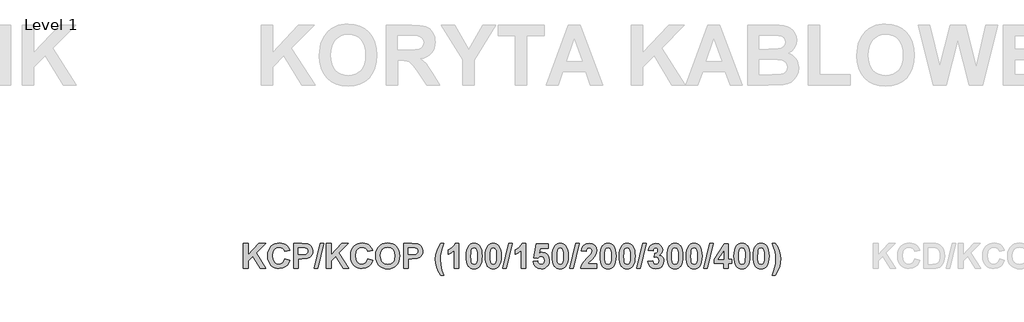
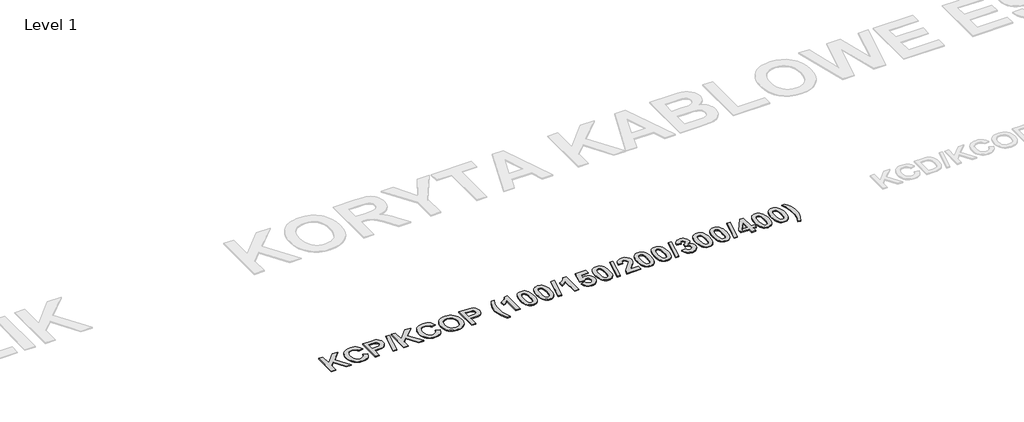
# One storey, part 16 of 42: 1 proxy.
"""IFC4 building model written with IfcOpenShell, lengths in millimetres."""

from ifc_helpers import new_model, si_unit, origin, origin_with_axes, place, context, project, spatial, polyline, outline, extrude, element, save

model = new_model("IFC4")

# Units and contexts
model_context = context("Model", 3, world=origin())
ifc_project = project(units=[si_unit("LENGTHUNIT", "METRE", prefix="MILLI")], contexts=[model_context])

# Site, building, storey
site = spatial("IfcSite", under=ifc_project)
building = spatial("IfcBuilding", under=site)
storey = spatial("IfcBuildingStorey", under=building, Name="Level 1", Elevation=0.0)

# Proxy
placement = place(None, origin())
element("IfcBuildingElementProxy", 1, Name="300mm Arial 2", ObjectType="300mm Arial 2", at=placement, inside=storey, context=model_context, shape_type="SweptSolid", body=[
    extrude(outline(polyline([(-16214.3228423, 4366.2760859), (-16214.3228423, 4621.3409359), (-16165.7390614, 4621.3409359), (-16165.7390614, 4505.0688143), (-16056.299034, 4621.3409359), (-15989.6228554, 4621.3409359), (-16086.157816, 4523.9203335), (-15985.574207, 4366.2760859), (-16042.381805, 4366.2760859), (-16117.7246216, 4491.9739671), (-16165.7390614, 4443.4534463), (-16165.7390614, 4366.2760859), (-16214.3228423, 4366.2760859)])), origin_with_axes(), (0.0, 0.0, 1.0), 10.0),
    extrude(outline(polyline([(-15793.2634074, 4463.4436478), (-15744.6796265, 4447.2490542), (-15760.0043933, 4411.4675423), (-15770.5253439, 4397.5325215), (-15782.952006, 4386.2346574), (-15813.3168691, 4371.2657288), (-15850.8933872, 4366.2760859), (-15875.2208615, 4368.4071616), (-15897.2788785, 4374.8003886), (-15917.0674384, 4385.455767), (-15934.5865411, 4400.3732968), (-15948.9228683, 4418.9875905), (-15959.1631021, 4440.7332606), (-15965.3072424, 4465.6103073), (-15967.3552891, 4493.6187305), (-15965.2894505, 4523.1533044), (-15959.0919345, 4549.192756), (-15948.7627411, 4571.7370854), (-15934.3018705, 4590.7862924), (-15916.4723978, 4605.9252326), (-15896.0373985, 4616.7387614), (-15872.9968725, 4623.2268786), (-15847.3508198, 4625.3895843), (-15824.9251032, 4623.6064394), (-15804.7134912, 4618.2570045), (-15786.7159838, 4609.3412797), (-15770.932581, 4596.8592651), (-15755.6078142, 4576.3471674), (-15744.6796265, 4548.4652645), (-15793.2634074, 4540.3679677), (-15800.7043804, 4557.1714401), (-15813.4117593, 4570.0053393), (-15830.4050121, 4578.1421737), (-15850.7036068, 4580.8544518), (-15878.1505963, 4575.9280691), (-15899.888359, 4561.1489208), (-15908.1497367, 4549.7719816), (-15914.0507209, 4535.3466947), (-15918.7715082, 4497.3510783), (-15914.1930562, 4457.275785), (-15908.4699912, 4442.2910414), (-15900.4577001, 4430.6748997), (-15879.3841689, 4415.7771388), (-15852.7911911, 4410.8112185), (-15832.7140069, 4413.9821326), (-15815.6258639, 4423.4948748), (-15802.2384386, 4439.8238963), (-15793.2634074, 4463.4436478)])), origin_with_axes(), (0.0, 0.0, 1.0), 10.0),
    extrude(outline(polyline([(-15704.1931423, 4366.2760859), (-15704.1931423, 4621.3409359), (-15622.0182316, 4621.3409359), (-15561.098725, 4617.545328), (-15541.0531708, 4608.4912217), (-15524.5659991, 4592.7157264), (-15513.5350137, 4570.8039984), (-15509.8580185, 4543.3411938), (-15512.0167705, 4521.8564717), (-15518.4930265, 4504.0882823), (-15528.2983468, 4489.8863828), (-15540.4442921, 4479.1005304), (-15567.4879983, 4467.0494753), (-15621.5754107, 4463.4436478), (-15655.6093614, 4463.4436478), (-15655.6093614, 4366.2760859), (-15704.1931423, 4366.2760859)]), holes=[polyline([(-15655.6093614, 4576.8058034), (-15655.6093614, 4507.9787804), (-15625.4342787, 4507.9787804), (-15581.8796782, 4511.7743883), (-15564.6729224, 4523.698923), (-15559.9995802, 4532.4841738), (-15558.4417995, 4542.5820723), (-15560.6321815, 4554.6489423), (-15567.2033277, 4564.4068176), (-15577.1114458, 4571.3970621), (-15589.3127436, 4575.16104), (-15628.976846, 4576.8058034), (-15655.6093614, 4576.8058034)])]), origin_with_axes(), (0.0, 0.0, 1.0), 10.0),
    extrude(outline(polyline([(-15494.5490667, 4366.2760859), (-15433.8193405, 4621.3409359), (-15396.495863, 4621.3409359), (-15457.2255892, 4366.2760859), (-15494.5490667, 4366.2760859)])), origin_with_axes(), (0.0, 0.0, 1.0), 10.0),
    extrude(outline(polyline([(-15372.2039725, 4366.2760859), (-15372.2039725, 4621.3409359), (-15323.6201916, 4621.3409359), (-15323.6201916, 4505.0688143), (-15214.1801642, 4621.3409359), (-15147.5039856, 4621.3409359), (-15244.0389462, 4523.9203335), (-15143.4553372, 4366.2760859), (-15200.2629352, 4366.2760859), (-15275.6057518, 4491.9739671), (-15323.6201916, 4443.4534463), (-15323.6201916, 4366.2760859), (-15372.2039725, 4366.2760859)])), origin_with_axes(), (0.0, 0.0, 1.0), 10.0),
    extrude(outline(polyline([(-14951.1445376, 4463.4436478), (-14902.5607566, 4447.2490542), (-14917.8855235, 4411.4675423), (-14928.4064741, 4397.5325215), (-14940.8331362, 4386.2346574), (-14971.1979993, 4371.2657288), (-15008.7745173, 4366.2760859), (-15033.1019916, 4368.4071616), (-15055.1600087, 4374.8003886), (-15074.9485686, 4385.455767), (-15092.4676712, 4400.3732968), (-15106.8039985, 4418.9875905), (-15117.0442323, 4440.7332606), (-15123.1883726, 4465.6103073), (-15125.2364193, 4493.6187305), (-15123.1705807, 4523.1533044), (-15116.9730647, 4549.192756), (-15106.6438713, 4571.7370854), (-15092.1830007, 4590.7862924), (-15074.353528, 4605.9252326), (-15053.9185287, 4616.7387614), (-15030.8780027, 4623.2268786), (-15005.23195, 4625.3895843), (-14982.8062334, 4623.6064394), (-14962.5946214, 4618.2570045), (-14944.597114, 4609.3412797), (-14928.8137112, 4596.8592651), (-14913.4889444, 4576.3471674), (-14902.5607566, 4548.4652645), (-14951.1445376, 4540.3679677), (-14958.5855106, 4557.1714401), (-14971.2928895, 4570.0053393), (-14988.2861423, 4578.1421737), (-15008.584737, 4580.8544518), (-15036.0317265, 4575.9280691), (-15057.7694892, 4561.1489208), (-15066.0308669, 4549.7719816), (-15071.9318511, 4535.3466947), (-15076.6526384, 4497.3510783), (-15072.0741864, 4457.275785), (-15066.3511214, 4442.2910414), (-15058.3388303, 4430.6748997), (-15037.265299, 4415.7771388), (-15010.6723213, 4410.8112185), (-14990.5951371, 4413.9821326), (-14973.5069941, 4423.4948748), (-14960.1195687, 4439.8238963), (-14951.1445376, 4463.4436478)])), origin_with_axes(), (0.0, 0.0, 1.0), 10.0),
    extrude(outline(polyline([(-14870.1715693, 4492.2270076), (-14867.3090484, 4528.000612), (-14858.7214856, 4557.5114633), (-14848.6235871, 4575.9438841), (-14835.4101271, 4592.3994258), (-14819.9351175, 4605.8659263), (-14803.0525699, 4615.3312234), (-14777.8434075, 4622.8749941), (-14749.0284176, 4625.3895843), (-14722.7359255, 4623.2090867), (-14699.2110641, 4616.6675937), (-14678.4538335, 4605.7651054), (-14660.4642336, 4590.5016218), (-14645.9341722, 4571.3555477), (-14635.5555569, 4548.8052877), (-14629.3283877, 4522.8508419), (-14627.2526646, 4493.4922103), (-14629.3125726, 4464.3332434), (-14635.4922967, 4438.5349711), (-14645.7918369, 4416.0973932), (-14660.2111931, 4397.0205098), (-14678.0821802, 4381.7985407), (-14698.7366131, 4370.9257056), (-14722.1744918, 4364.4020045), (-14748.3958163, 4362.2274375), (-14774.8939039, 4364.3921201), (-14798.5294705, 4370.886168), (-14819.3025162, 4381.7095811), (-14837.2130409, 4396.8623595), (-14851.6323971, 4415.8107457), (-14861.9319372, 4438.0209825), (-14868.1116613, 4463.4930698), (-14870.1715693, 4492.2270076)]), holes=[polyline([(-14821.5877884, 4493.9982913), (-14816.4241802, 4456.2478079), (-14809.9696699, 4441.2749255), (-14800.9333555, 4428.9036161), (-14777.4875693, 4412.2978316), (-14748.4590764, 4406.7625701), (-14719.4938438, 4412.258294), (-14696.2378379, 4428.7454657), (-14687.3122288, 4441.1108446), (-14680.9367936, 4456.2240853), (-14675.8364455, 4494.6941528), (-14680.8023659, 4532.5869715), (-14687.0097663, 4547.4056573), (-14695.7001268, 4559.4725274), (-14718.8217049, 4575.5089707), (-14748.4590764, 4580.8544518), (-14778.1597082, 4575.4457106), (-14801.4710666, 4559.2194868), (-14810.2721324, 4547.0300503), (-14816.5586079, 4532.0967055), (-14821.5877884, 4493.9982913)])]), origin_with_axes(), (0.0, 0.0, 1.0), 10.0),
    extrude(outline(polyline([(-14586.7661805, 4366.2760859), (-14586.7661805, 4621.3409359), (-14504.5912697, 4621.3409359), (-14443.6717631, 4617.545328), (-14423.626209, 4608.4912217), (-14407.1390372, 4592.7157264), (-14396.1080518, 4570.8039984), (-14392.4310567, 4543.3411938), (-14394.5898087, 4521.8564717), (-14401.0660646, 4504.0882823), (-14410.871385, 4489.8863828), (-14423.0173302, 4479.1005304), (-14450.0610364, 4467.0494753), (-14504.1484488, 4463.4436478), (-14538.1823995, 4463.4436478), (-14538.1823995, 4366.2760859), (-14586.7661805, 4366.2760859)]), holes=[polyline([(-14538.1823995, 4576.8058034), (-14538.1823995, 4507.9787804), (-14508.0073168, 4507.9787804), (-14464.4527163, 4511.7743883), (-14447.2459606, 4523.698923), (-14442.5726184, 4532.4841738), (-14441.0148376, 4542.5820723), (-14443.2052197, 4554.6489423), (-14449.7763658, 4564.4068176), (-14459.6844839, 4571.3970621), (-14471.8857818, 4575.16104), (-14511.5498842, 4576.8058034), (-14538.1823995, 4576.8058034)])]), origin_with_axes(), (0.0, 0.0, 1.0), 10.0),
    extrude(outline(polyline([(-14177.8526908, 4297.4490629), (-14210.2418781, 4297.4490629), (-14232.9127277, 4337.1210729), (-14249.4315295, 4378.327141), (-14259.513613, 4419.6280993), (-14262.8743075, 4459.5847798), (-14258.7623989, 4506.9824333), (-14246.4266733, 4551.7547913), (-14230.2320796, 4588.0344767), (-14210.2418781, 4621.3409359), (-14177.8526908, 4621.3409359), (-14195.4152848, 4574.1014328), (-14206.4779003, 4534.4847754), (-14212.33737, 4497.6041188), (-14214.2905265, 4458.5726177), (-14209.6092768, 4401.92317), (-14196.7674701, 4346.8552256), (-14177.8526908, 4297.4490629)])), origin_with_axes(), (0.0, 0.0, 1.0), 10.0),
    extrude(outline(polyline([(-14024.0040511, 4366.2760859), (-14072.5878321, 4366.2760859), (-14072.5878321, 4548.5917848), (-14100.6437004, 4524.7110851), (-14133.3175583, 4507.9787804), (-14133.3175583, 4556.5625613), (-14113.8492528, 4565.6482977), (-14092.767814, 4580.3800008), (-14074.3116707, 4599.3975778), (-14062.7192516, 4621.3409359), (-14024.0040511, 4621.3409359), (-14024.0040511, 4366.2760859)])), origin_with_axes(), (0.0, 0.0, 1.0), 10.0),
    extrude(outline(polyline([(-13870.1554115, 4621.3409359), (-13853.0237771, 4619.6961725), (-13837.8769294, 4614.7618822), (-13824.7148683, 4606.5380652), (-13813.5375938, 4595.0247212), (-13802.8822154, 4576.8967398), (-13795.2712309, 4553.6367802), (-13790.7046401, 4525.2448425), (-13789.1824432, 4491.7209266), (-13790.7125476, 4458.2286407), (-13795.3028609, 4429.8050729), (-13802.9533831, 4406.4502232), (-13813.6641141, 4388.1640914), (-13824.7860359, 4376.8168053), (-13837.9085595, 4368.711601), (-13853.0316846, 4363.8484784), (-13870.1554115, 4362.2274375), (-13887.462988, 4364.0066287), (-13903.0111422, 4369.3442023), (-13916.799874, 4378.2401583), (-13928.8291834, 4390.6944967), (-13938.5850818, 4407.7154258), (-13945.5535806, 4430.311154), (-13949.7346799, 4458.4816813), (-13951.1283797, 4492.2270076), (-13949.5982753, 4525.5532356), (-13945.007962, 4553.8581907), (-13937.3574398, 4577.1418728), (-13926.6467088, 4595.404282), (-13915.524787, 4606.7515681), (-13902.4022635, 4614.8567724), (-13887.2791383, 4619.7198951), (-13870.1554115, 4621.3409359)]), holes=[polyline([(-13870.1554115, 4576.8058034), (-13886.3500051, 4571.4603223), (-13892.6760182, 4563.9877192), (-13897.357268, 4552.2608724), (-13901.2477661, 4528.1113172), (-13902.5445988, 4491.7209266), (-13901.3901014, 4455.8128945), (-13897.9266092, 4433.2369351), (-13892.6997408, 4419.9839375), (-13886.2551149, 4412.044791), (-13870.1554115, 4406.7625701), (-13853.9608178, 4412.1080512), (-13847.6348047, 4419.5806542), (-13842.9535549, 4431.3075011), (-13839.0630568, 4455.330536), (-13837.7662242, 4491.7209266), (-13838.9207216, 4527.5894211), (-13842.3842138, 4550.173288), (-13847.6110821, 4563.4658232), (-13854.055708, 4571.4603223), (-13870.1554115, 4576.8058034)])]), origin_with_axes(), (0.0, 0.0, 1.0), 10.0),
    extrude(outline(polyline([(-13675.8202877, 4621.3409359), (-13658.6886533, 4619.6961725), (-13643.5418056, 4614.7618822), (-13630.3797445, 4606.5380652), (-13619.20247, 4595.0247212), (-13608.5470916, 4576.8967398), (-13600.9361071, 4553.6367802), (-13596.3695163, 4525.2448425), (-13594.8473194, 4491.7209266), (-13596.3774238, 4458.2286407), (-13600.9677371, 4429.8050729), (-13608.6182593, 4406.4502232), (-13619.3289903, 4388.1640914), (-13630.4509121, 4376.8168053), (-13643.5734356, 4368.711601), (-13658.6965608, 4363.8484784), (-13675.8202877, 4362.2274375), (-13693.1278642, 4364.0066287), (-13708.6760184, 4369.3442023), (-13722.4647502, 4378.2401583), (-13734.4940596, 4390.6944967), (-13744.249958, 4407.7154258), (-13751.2184568, 4430.311154), (-13755.3995561, 4458.4816813), (-13756.7932559, 4492.2270076), (-13755.2631515, 4525.5532356), (-13750.6728382, 4553.8581907), (-13743.022316, 4577.1418728), (-13732.311585, 4595.404282), (-13721.1896632, 4606.7515681), (-13708.0671397, 4614.8567724), (-13692.9440145, 4619.7198951), (-13675.8202877, 4621.3409359)]), holes=[polyline([(-13675.8202877, 4576.8058034), (-13692.0148813, 4571.4603223), (-13698.3408944, 4563.9877192), (-13703.0221442, 4552.2608724), (-13706.9126423, 4528.1113172), (-13708.209475, 4491.7209266), (-13707.0549776, 4455.8128945), (-13703.5914854, 4433.2369351), (-13698.364617, 4419.9839375), (-13691.9199911, 4412.044791), (-13675.8202877, 4406.7625701), (-13659.625694, 4412.1080512), (-13653.2996809, 4419.5806542), (-13648.6184311, 4431.3075011), (-13644.727933, 4455.330536), (-13643.4311004, 4491.7209266), (-13644.5855978, 4527.5894211), (-13648.0490899, 4550.173288), (-13653.2759583, 4563.4658232), (-13659.7205842, 4571.4603223), (-13675.8202877, 4576.8058034)])]), origin_with_axes(), (0.0, 0.0, 1.0), 10.0),
    extrude(outline(polyline([(-13579.5383676, 4366.2760859), (-13518.8086414, 4621.3409359), (-13481.4851639, 4621.3409359), (-13542.21489, 4366.2760859), (-13579.5383676, 4366.2760859)])), origin_with_axes(), (0.0, 0.0, 1.0), 10.0),
    extrude(outline(polyline([(-13343.8311178, 4366.2760859), (-13392.4148988, 4366.2760859), (-13392.4148988, 4548.5917848), (-13420.4707671, 4524.7110851), (-13453.144625, 4507.9787804), (-13453.144625, 4556.5625613), (-13433.6763195, 4565.6482977), (-13412.5948807, 4580.3800008), (-13394.1387374, 4599.3975778), (-13382.5463183, 4621.3409359), (-13343.8311178, 4621.3409359), (-13343.8311178, 4366.2760859)])), origin_with_axes(), (0.0, 0.0, 1.0), 10.0),
    extrude(outline(polyline([(-13270.9554464, 4438.0763351), (-13226.4203139, 4443.2004058), (-13222.2767753, 4428.1286795), (-13214.0213281, 4416.5678904), (-13202.919175, 4409.2139001), (-13190.2355187, 4406.7625701), (-13176.0415267, 4409.364143), (-13164.2039746, 4417.1688617), (-13156.2094755, 4430.2083563), (-13153.5446424, 4448.5142568), (-13156.0196951, 4465.6735675), (-13163.444853, 4477.9302179), (-13174.8395842, 4485.2842082), (-13189.2233566, 4487.7355383), (-13208.0432457, 4482.6747278), (-13224.7755504, 4467.4922962), (-13266.906798, 4473.7550493), (-13238.5662591, 4617.2922875), (-13117.1068067, 4617.2922875), (-13117.1068067, 4568.7085066), (-13199.2817175, 4568.7085066), (-13209.0870378, 4522.3388302), (-13193.6041207, 4529.7877107), (-13177.7732728, 4532.2706708), (-13149.6541444, 4526.5219064), (-13126.1530055, 4509.2756131), (-13110.2588975, 4482.8566007), (-13104.9608615, 4449.589679), (-13109.3732557, 4420.6639839), (-13122.6104382, 4394.9961856), (-13135.8278519, 4380.6598583), (-13151.3779829, 4370.4196245), (-13169.2608313, 4364.2754843), (-13189.4763971, 4362.2274375), (-13220.481769, 4367.3673232), (-13245.1769428, 4382.7869802), (-13262.3916061, 4406.8890903), (-13270.9554464, 4438.0763351)])), origin_with_axes(), (0.0, 0.0, 1.0), 10.0),
    extrude(outline(polyline([(-12995.6473543, 4621.3409359), (-12978.51572, 4619.6961725), (-12963.3688723, 4614.7618822), (-12950.2068112, 4606.5380652), (-12939.0295367, 4595.0247212), (-12928.3741583, 4576.8967398), (-12920.7631738, 4553.6367802), (-12916.196583, 4525.2448425), (-12914.6743861, 4491.7209266), (-12916.2044905, 4458.2286407), (-12920.7948038, 4429.8050729), (-12928.445326, 4406.4502232), (-12939.156057, 4388.1640914), (-12950.2779788, 4376.8168053), (-12963.4005023, 4368.711601), (-12978.5236275, 4363.8484784), (-12995.6473543, 4362.2274375), (-13012.9549309, 4364.0066287), (-13028.5030851, 4369.3442023), (-13042.2918169, 4378.2401583), (-13054.3211263, 4390.6944967), (-13064.0770247, 4407.7154258), (-13071.0455235, 4430.311154), (-13075.2266228, 4458.4816813), (-13076.6203226, 4492.2270076), (-13075.0902182, 4525.5532356), (-13070.4999049, 4553.8581907), (-13062.8493827, 4577.1418728), (-13052.1386517, 4595.404282), (-13041.0167299, 4606.7515681), (-13027.8942064, 4614.8567724), (-13012.7710812, 4619.7198951), (-12995.6473543, 4621.3409359)]), holes=[polyline([(-12995.6473543, 4576.8058034), (-13011.841948, 4571.4603223), (-13018.1679611, 4563.9877192), (-13022.8492109, 4552.2608724), (-13026.739709, 4528.1113172), (-13028.0365416, 4491.7209266), (-13026.8820443, 4455.8128945), (-13023.4185521, 4433.2369351), (-13018.1916837, 4419.9839375), (-13011.7470578, 4412.044791), (-12995.6473543, 4406.7625701), (-12979.4527607, 4412.1080512), (-12973.1267476, 4419.5806542), (-12968.4454978, 4431.3075011), (-12964.5549997, 4455.330536), (-12963.258167, 4491.7209266), (-12964.4126644, 4527.5894211), (-12967.8761566, 4550.173288), (-12973.103025, 4563.4658232), (-12979.5476509, 4571.4603223), (-12995.6473543, 4576.8058034)])]), origin_with_axes(), (0.0, 0.0, 1.0), 10.0),
    extrude(outline(polyline([(-12899.3654343, 4366.2760859), (-12838.6357081, 4621.3409359), (-12801.3122305, 4621.3409359), (-12862.0419567, 4366.2760859), (-12899.3654343, 4366.2760859)])), origin_with_axes(), (0.0, 0.0, 1.0), 10.0),
    extrude(outline(polyline([(-12623.1717004, 4414.8598669), (-12623.1717004, 4366.2760859), (-12785.1176369, 4366.2760859), (-12779.9461212, 4390.7814793), (-12769.6189047, 4413.942595), (-12750.4352698, 4440.1243819), (-12718.6944989, 4473.6917891), (-12681.1179808, 4514.4313138), (-12674.0961062, 4529.1392943), (-12671.7554813, 4543.6574945), (-12673.7244529, 4557.8040414), (-12679.6313677, 4568.2340556), (-12689.0017747, 4574.6628664), (-12701.3612229, 4576.8058034), (-12713.6336884, 4574.6944965), (-12723.1227081, 4568.3605758), (-12729.5119814, 4557.13981), (-12732.4852075, 4540.3679677), (-12781.0689885, 4544.7961769), (-12772.4656106, 4579.9450874), (-12764.8427648, 4593.1842468), (-12755.0058143, 4603.5332089), (-12730.3818082, 4616.8890042), (-12700.2858006, 4621.3409359), (-12668.1496539, 4616.3512931), (-12643.7312431, 4601.3823644), (-12628.3115861, 4578.9961854), (-12623.1717004, 4551.7547913), (-12628.8018521, 4519.6186446), (-12646.6412092, 4487.6722782), (-12676.8479219, 4455.7891719), (-12704.5874896, 4428.1444945), (-12713.6969485, 4414.8598669), (-12623.1717004, 4414.8598669)])), origin_with_axes(), (0.0, 0.0, 1.0), 10.0),
    extrude(outline(polyline([(-12509.8095448, 4621.3409359), (-12492.6779105, 4619.6961725), (-12477.5310628, 4614.7618822), (-12464.3690017, 4606.5380652), (-12453.1917272, 4595.0247212), (-12442.5363488, 4576.8967398), (-12434.9253642, 4553.6367802), (-12430.3587735, 4525.2448425), (-12428.8365766, 4491.7209266), (-12430.366681, 4458.2286407), (-12434.9569943, 4429.8050729), (-12442.6075165, 4406.4502232), (-12453.3182475, 4388.1640914), (-12464.4401693, 4376.8168053), (-12477.5626928, 4368.711601), (-12492.685818, 4363.8484784), (-12509.8095448, 4362.2274375), (-12527.1171214, 4364.0066287), (-12542.6652756, 4369.3442023), (-12556.4540074, 4378.2401583), (-12568.4833168, 4390.6944967), (-12578.2392152, 4407.7154258), (-12585.207714, 4430.311154), (-12589.3888133, 4458.4816813), (-12590.7825131, 4492.2270076), (-12589.2524087, 4525.5532356), (-12584.6620954, 4553.8581907), (-12577.0115732, 4577.1418728), (-12566.3008422, 4595.404282), (-12555.1789204, 4606.7515681), (-12542.0563969, 4614.8567724), (-12526.9332717, 4619.7198951), (-12509.8095448, 4621.3409359)]), holes=[polyline([(-12509.8095448, 4576.8058034), (-12526.0041385, 4571.4603223), (-12532.3301516, 4563.9877192), (-12537.0114014, 4552.2608724), (-12540.9018995, 4528.1113172), (-12542.1987321, 4491.7209266), (-12541.0442347, 4455.8128945), (-12537.5807426, 4433.2369351), (-12532.3538742, 4419.9839375), (-12525.9092483, 4412.044791), (-12509.8095448, 4406.7625701), (-12493.6149512, 4412.1080512), (-12487.2889381, 4419.5806542), (-12482.6076883, 4431.3075011), (-12478.7171902, 4455.330536), (-12477.4203575, 4491.7209266), (-12478.5748549, 4527.5894211), (-12482.0383471, 4550.173288), (-12487.2652155, 4563.4658232), (-12493.7098414, 4571.4603223), (-12509.8095448, 4576.8058034)])]), origin_with_axes(), (0.0, 0.0, 1.0), 10.0),
    extrude(outline(polyline([(-12315.474421, 4621.3409359), (-12298.3427867, 4619.6961725), (-12283.195939, 4614.7618822), (-12270.0338779, 4606.5380652), (-12258.8566034, 4595.0247212), (-12248.201225, 4576.8967398), (-12240.5902404, 4553.6367802), (-12236.0236497, 4525.2448425), (-12234.5014528, 4491.7209266), (-12236.0315572, 4458.2286407), (-12240.6218705, 4429.8050729), (-12248.2723927, 4406.4502232), (-12258.9831237, 4388.1640914), (-12270.1050455, 4376.8168053), (-12283.227569, 4368.711601), (-12298.3506942, 4363.8484784), (-12315.474421, 4362.2274375), (-12332.7819976, 4364.0066287), (-12348.3301518, 4369.3442023), (-12362.1188836, 4378.2401583), (-12374.148193, 4390.6944967), (-12383.9040914, 4407.7154258), (-12390.8725902, 4430.311154), (-12395.0536895, 4458.4816813), (-12396.4473893, 4492.2270076), (-12394.9172849, 4525.5532356), (-12390.3269716, 4553.8581907), (-12382.6764494, 4577.1418728), (-12371.9657184, 4595.404282), (-12360.8437966, 4606.7515681), (-12347.721273, 4614.8567724), (-12332.5981479, 4619.7198951), (-12315.474421, 4621.3409359)]), holes=[polyline([(-12315.474421, 4576.8058034), (-12331.6690147, 4571.4603223), (-12337.9950278, 4563.9877192), (-12342.6762776, 4552.2608724), (-12346.5667757, 4528.1113172), (-12347.8636083, 4491.7209266), (-12346.7091109, 4455.8128945), (-12343.2456187, 4433.2369351), (-12338.0187504, 4419.9839375), (-12331.5741245, 4412.044791), (-12315.474421, 4406.7625701), (-12299.2798274, 4412.1080512), (-12292.9538142, 4419.5806542), (-12288.2725645, 4431.3075011), (-12284.3820664, 4455.330536), (-12283.0852337, 4491.7209266), (-12284.2397311, 4527.5894211), (-12287.7032233, 4550.173288), (-12292.9300917, 4563.4658232), (-12299.3747176, 4571.4603223), (-12315.474421, 4576.8058034)])]), origin_with_axes(), (0.0, 0.0, 1.0), 10.0),
    extrude(outline(polyline([(-12219.192501, 4366.2760859), (-12158.4627748, 4621.3409359), (-12121.1392972, 4621.3409359), (-12181.8690234, 4366.2760859), (-12219.192501, 4366.2760859)])), origin_with_axes(), (0.0, 0.0, 1.0), 10.0),
    extrude(outline(polyline([(-12104.9447036, 4437.5702541), (-12056.3609226, 4443.2004058), (-12052.6127599, 4427.5751533), (-12045.4169199, 4416.1250695), (-12035.5641544, 4409.1031949), (-12023.8452151, 4406.7625701), (-12011.272264, 4409.4432181), (-12000.8817874, 4417.4851623), (-11993.9073579, 4430.066021), (-11991.582548, 4446.3634123), (-11993.70967, 4461.7830694), (-12000.0910357, 4473.628529), (-12009.5405179, 4481.1722997), (-12020.8719889, 4483.6868899), (-12040.166329, 4480.0810624), (-12035.9279002, 4520.1247256), (-12022.0976539, 4521.8643792), (-12011.9839404, 4528.0955022), (-12005.7923551, 4537.9640827), (-12003.7284933, 4550.616109), (-12005.270459, 4561.3624238), (-12009.8963561, 4569.6890386), (-12017.0842885, 4575.0266122), (-12026.3123602, 4576.8058034), (-12035.6985822, 4574.7419416), (-12043.6140062, 4568.5503562), (-12049.3785856, 4558.3891976), (-12052.3122742, 4544.4166161), (-12100.8960552, 4551.6915312), (-12095.3370711, 4573.4292939), (-12087.5165374, 4590.3118414), (-12076.7939451, 4603.2248158), (-12062.5287855, 4613.0538587), (-12045.5355326, 4619.2691666), (-12026.6286609, 4621.3409359), (-11995.9791272, 4615.600079), (-11983.1926731, 4608.4240078), (-11972.0984276, 4598.3775082), (-11959.3831411, 4578.3556766), (-11955.1447123, 4555.8666999), (-11957.4181233, 4539.921193), (-11964.2383562, 4525.6758021), (-11975.6054111, 4513.1305273), (-11991.5192879, 4502.2853685), (-11971.6556066, 4494.7336903), (-11956.2201346, 4481.4411552), (-11946.304109, 4463.5780756), (-11942.9987671, 4442.3147639), (-11948.8582368, 4411.5466175), (-11966.4366458, 4385.6653162), (-11978.8731923, 4375.4112443), (-11992.744953, 4368.0869072), (-12024.7941171, 4362.2274375), (-12055.0561824, 4367.4384908), (-12079.6722811, 4383.0716508), (-12096.8869444, 4407.1184083), (-12104.9447036, 4437.5702541)])), origin_with_axes(), (0.0, 0.0, 1.0), 10.0),
    extrude(outline(polyline([(-11829.6366115, 4621.3409359), (-11812.5049772, 4619.6961725), (-11797.3581295, 4614.7618822), (-11784.1960684, 4606.5380652), (-11773.0187939, 4595.0247212), (-11762.3634155, 4576.8967398), (-11754.7524309, 4553.6367802), (-11750.1858402, 4525.2448425), (-11748.6636433, 4491.7209266), (-11750.1937477, 4458.2286407), (-11754.784061, 4429.8050729), (-11762.4345832, 4406.4502232), (-11773.1453142, 4388.1640914), (-11784.267236, 4376.8168053), (-11797.3897595, 4368.711601), (-11812.5128847, 4363.8484784), (-11829.6366115, 4362.2274375), (-11846.9441881, 4364.0066287), (-11862.4923423, 4369.3442023), (-11876.2810741, 4378.2401583), (-11888.3103835, 4390.6944967), (-11898.0662819, 4407.7154258), (-11905.0347807, 4430.311154), (-11909.21588, 4458.4816813), (-11910.6095798, 4492.2270076), (-11909.0794754, 4525.5532356), (-11904.4891621, 4553.8581907), (-11896.8386399, 4577.1418728), (-11886.1279089, 4595.404282), (-11875.0059871, 4606.7515681), (-11861.8834635, 4614.8567724), (-11846.7603384, 4619.7198951), (-11829.6366115, 4621.3409359)]), holes=[polyline([(-11829.6366115, 4576.8058034), (-11845.8312052, 4571.4603223), (-11852.1572183, 4563.9877192), (-11856.8384681, 4552.2608724), (-11860.7289661, 4528.1113172), (-11862.0257988, 4491.7209266), (-11860.8713014, 4455.8128945), (-11857.4078092, 4433.2369351), (-11852.1809409, 4419.9839375), (-11845.736315, 4412.044791), (-11829.6366115, 4406.7625701), (-11813.4420179, 4412.1080512), (-11807.1160047, 4419.5806542), (-11802.434755, 4431.3075011), (-11798.5442569, 4455.330536), (-11797.2474242, 4491.7209266), (-11798.4019216, 4527.5894211), (-11801.8654138, 4550.173288), (-11807.0922822, 4563.4658232), (-11813.5369081, 4571.4603223), (-11829.6366115, 4576.8058034)])]), origin_with_axes(), (0.0, 0.0, 1.0), 10.0),
    extrude(outline(polyline([(-11635.3014877, 4621.3409359), (-11618.1698534, 4619.6961725), (-11603.0230057, 4614.7618822), (-11589.8609446, 4606.5380652), (-11578.6836701, 4595.0247212), (-11568.0282917, 4576.8967398), (-11560.4173071, 4553.6367802), (-11555.8507164, 4525.2448425), (-11554.3285195, 4491.7209266), (-11555.8586239, 4458.2286407), (-11560.4489372, 4429.8050729), (-11568.0994594, 4406.4502232), (-11578.8101904, 4388.1640914), (-11589.9321122, 4376.8168053), (-11603.0546357, 4368.711601), (-11618.1777609, 4363.8484784), (-11635.3014877, 4362.2274375), (-11652.6090643, 4364.0066287), (-11668.1572185, 4369.3442023), (-11681.9459503, 4378.2401583), (-11693.9752597, 4390.6944967), (-11703.7311581, 4407.7154258), (-11710.6996569, 4430.311154), (-11714.8807562, 4458.4816813), (-11716.274456, 4492.2270076), (-11714.7443516, 4525.5532356), (-11710.1540383, 4553.8581907), (-11702.5035161, 4577.1418728), (-11691.7927851, 4595.404282), (-11680.6708633, 4606.7515681), (-11667.5483397, 4614.8567724), (-11652.4252146, 4619.7198951), (-11635.3014877, 4621.3409359)]), holes=[polyline([(-11635.3014877, 4576.8058034), (-11651.4960814, 4571.4603223), (-11657.8220945, 4563.9877192), (-11662.5033443, 4552.2608724), (-11666.3938423, 4528.1113172), (-11667.690675, 4491.7209266), (-11666.5361776, 4455.8128945), (-11663.0726854, 4433.2369351), (-11657.8458171, 4419.9839375), (-11651.4011912, 4412.044791), (-11635.3014877, 4406.7625701), (-11619.1068941, 4412.1080512), (-11612.7808809, 4419.5806542), (-11608.0996312, 4431.3075011), (-11604.2091331, 4455.330536), (-11602.9123004, 4491.7209266), (-11604.0667978, 4527.5894211), (-11607.53029, 4550.173288), (-11612.7571584, 4563.4658232), (-11619.2017843, 4571.4603223), (-11635.3014877, 4576.8058034)])]), origin_with_axes(), (0.0, 0.0, 1.0), 10.0),
    extrude(outline(polyline([(-11539.0195677, 4366.2760859), (-11478.2898415, 4621.3409359), (-11440.9663639, 4621.3409359), (-11501.6960901, 4366.2760859), (-11539.0195677, 4366.2760859)])), origin_with_axes(), (0.0, 0.0, 1.0), 10.0),
    extrude(outline(polyline([(-11335.7015052, 4366.2760859), (-11335.7015052, 4418.9085153), (-11432.8690671, 4418.9085153), (-11432.8690671, 4459.205219), (-11329.2489718, 4617.2922875), (-11287.1177243, 4617.2922875), (-11287.1177243, 4459.3949994), (-11254.728537, 4459.3949994), (-11254.728537, 4418.9085153), (-11287.1177243, 4418.9085153), (-11287.1177243, 4366.2760859), (-11335.7015052, 4366.2760859)]), holes=[polyline([(-11335.7015052, 4459.3949994), (-11335.7015052, 4542.2657716), (-11389.978698, 4459.3949994), (-11335.7015052, 4459.3949994)])]), origin_with_axes(), (0.0, 0.0, 1.0), 10.0),
    extrude(outline(polyline([(-11149.4636782, 4621.3409359), (-11132.3320439, 4619.6961725), (-11117.1851962, 4614.7618822), (-11104.0231351, 4606.5380652), (-11092.8458606, 4595.0247212), (-11082.1904822, 4576.8967398), (-11074.5794976, 4553.6367802), (-11070.0129069, 4525.2448425), (-11068.49071, 4491.7209266), (-11070.0208144, 4458.2286407), (-11074.6111277, 4429.8050729), (-11082.2616499, 4406.4502232), (-11092.9723809, 4388.1640914), (-11104.0943027, 4376.8168053), (-11117.2168262, 4368.711601), (-11132.3399514, 4363.8484784), (-11149.4636782, 4362.2274375), (-11166.7712548, 4364.0066287), (-11182.319409, 4369.3442023), (-11196.1081408, 4378.2401583), (-11208.1374502, 4390.6944967), (-11217.8933485, 4407.7154258), (-11224.8618474, 4430.311154), (-11229.0429467, 4458.4816813), (-11230.4366465, 4492.2270076), (-11228.9065421, 4525.5532356), (-11224.3162288, 4553.8581907), (-11216.6657066, 4577.1418728), (-11205.9549756, 4595.404282), (-11194.8330538, 4606.7515681), (-11181.7105302, 4614.8567724), (-11166.5874051, 4619.7198951), (-11149.4636782, 4621.3409359)]), holes=[polyline([(-11149.4636782, 4576.8058034), (-11165.6582719, 4571.4603223), (-11171.984285, 4563.9877192), (-11176.6655348, 4552.2608724), (-11180.5560328, 4528.1113172), (-11181.8528655, 4491.7209266), (-11180.6983681, 4455.8128945), (-11177.2348759, 4433.2369351), (-11172.0080076, 4419.9839375), (-11165.5633817, 4412.044791), (-11149.4636782, 4406.7625701), (-11133.2690846, 4412.1080512), (-11126.9430714, 4419.5806542), (-11122.2618217, 4431.3075011), (-11118.3713236, 4455.330536), (-11117.0744909, 4491.7209266), (-11118.2289883, 4527.5894211), (-11121.6924805, 4550.173288), (-11126.9193489, 4563.4658232), (-11133.3639748, 4571.4603223), (-11149.4636782, 4576.8058034)])]), origin_with_axes(), (0.0, 0.0, 1.0), 10.0),
    extrude(outline(polyline([(-10955.1285544, 4621.3409359), (-10937.9969201, 4619.6961725), (-10922.8500724, 4614.7618822), (-10909.6880113, 4606.5380652), (-10898.5107368, 4595.0247212), (-10887.8553584, 4576.8967398), (-10880.2443738, 4553.6367802), (-10875.6777831, 4525.2448425), (-10874.1555862, 4491.7209266), (-10875.6856906, 4458.2286407), (-10880.2760039, 4429.8050729), (-10887.926526, 4406.4502232), (-10898.6372571, 4388.1640914), (-10909.7591789, 4376.8168053), (-10922.8817024, 4368.711601), (-10938.0048276, 4363.8484784), (-10955.1285544, 4362.2274375), (-10972.436131, 4364.0066287), (-10987.9842852, 4369.3442023), (-11001.773017, 4378.2401583), (-11013.8023264, 4390.6944967), (-11023.5582247, 4407.7154258), (-11030.5267236, 4430.311154), (-11034.7078229, 4458.4816813), (-11036.1015227, 4492.2270076), (-11034.5714183, 4525.5532356), (-11029.981105, 4553.8581907), (-11022.3305828, 4577.1418728), (-11011.6198518, 4595.404282), (-11000.49793, 4606.7515681), (-10987.3754064, 4614.8567724), (-10972.2522813, 4619.7198951), (-10955.1285544, 4621.3409359)]), holes=[polyline([(-10955.1285544, 4576.8058034), (-10971.3231481, 4571.4603223), (-10977.6491612, 4563.9877192), (-10982.330411, 4552.2608724), (-10986.220909, 4528.1113172), (-10987.5177417, 4491.7209266), (-10986.3632443, 4455.8128945), (-10982.8997521, 4433.2369351), (-10977.6728838, 4419.9839375), (-10971.2282579, 4412.044791), (-10955.1285544, 4406.7625701), (-10938.9339608, 4412.1080512), (-10932.6079476, 4419.5806542), (-10927.9266979, 4431.3075011), (-10924.0361998, 4455.330536), (-10922.7393671, 4491.7209266), (-10923.8938645, 4527.5894211), (-10927.3573567, 4550.173288), (-10932.5842251, 4563.4658232), (-10939.028851, 4571.4603223), (-10955.1285544, 4576.8058034)])]), origin_with_axes(), (0.0, 0.0, 1.0), 10.0),
    extrude(outline(polyline([(-10841.7663989, 4297.4490629), (-10823.7688915, 4343.4391785), (-10814.0900914, 4380.3514652), (-10807.4794076, 4420.0471977), (-10805.3285632, 4458.5726177), (-10807.2738122, 4497.6041188), (-10813.1095593, 4534.4847754), (-10824.1642673, 4574.1014328), (-10841.7663989, 4621.3409359), (-10809.3772116, 4621.3409359), (-10787.180813, 4584.0016433), (-10770.5671209, 4544.4798762), (-10760.2003669, 4503.5822012), (-10756.7447822, 4462.1151851), (-10759.512413, 4425.6140892), (-10767.8153052, 4386.5825881), (-10784.531795, 4341.7153399), (-10809.3772116, 4297.4490629), (-10841.7663989, 4297.4490629)])), origin_with_axes(), (0.0, 0.0, 1.0), 10.0),
])

save(model, "model.ifc")
